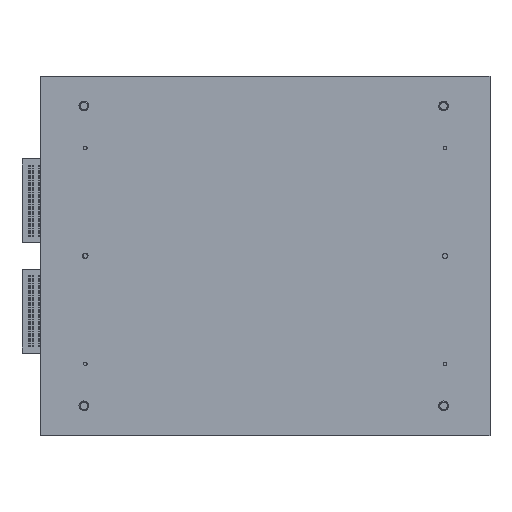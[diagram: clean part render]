
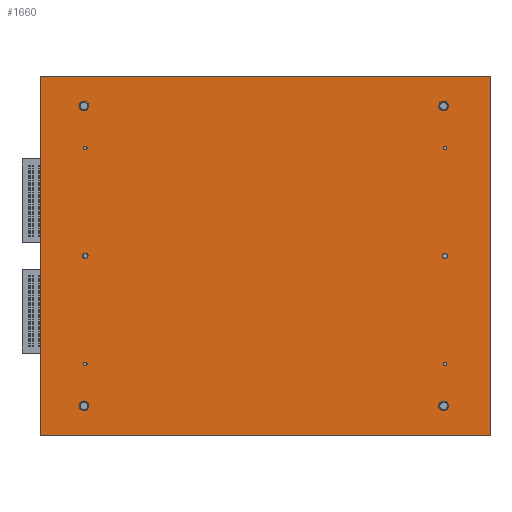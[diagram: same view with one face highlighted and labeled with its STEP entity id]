
A CAD part, top view. The second image highlights one B-rep face of the part: STEP entity #1660.
In plain terms, the highlighted planar face has unit normal (0, 0, 1).
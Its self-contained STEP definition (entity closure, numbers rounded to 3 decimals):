
#108=CARTESIAN_POINT('Axis2P3D Location',(-60.,0.,-0.745)) ;
#112=CARTESIAN_POINT('Vertex',(-60.79,-0.431,-0.745)) ;
#114=CARTESIAN_POINT('Vertex',(-59.21,0.431,-0.745)) ;
#134=CARTESIAN_POINT('Axis2P3D Location',(-60.,0.,-0.745)) ;
#241=CARTESIAN_POINT('Vertex',(-75.,-60.,-0.745)) ;
#244=CARTESIAN_POINT('Line Origine',(-75.,0.,-0.745)) ;
#248=CARTESIAN_POINT('Vertex',(-75.,60.,-0.745)) ;
#332=CARTESIAN_POINT('Line Origine',(0.,60.,-0.745)) ;
#336=CARTESIAN_POINT('Vertex',(75.,60.,-0.745)) ;
#433=CARTESIAN_POINT('Line Origine',(75.,0.,-0.745)) ;
#437=CARTESIAN_POINT('Vertex',(75.,-60.,-0.745)) ;
#590=CARTESIAN_POINT('Vertex',(60.923,-49.223,-0.745)) ;
#595=CARTESIAN_POINT('Axis2P3D Location',(59.5,-50.,-0.745)) ;
#599=CARTESIAN_POINT('Vertex',(58.077,-50.777,-0.745)) ;
#621=CARTESIAN_POINT('Axis2P3D Location',(59.5,-50.,-0.745)) ;
#647=CARTESIAN_POINT('Vertex',(60.923,50.777,-0.745)) ;
#652=CARTESIAN_POINT('Axis2P3D Location',(59.5,50.,-0.745)) ;
#656=CARTESIAN_POINT('Vertex',(58.077,49.223,-0.745)) ;
#678=CARTESIAN_POINT('Axis2P3D Location',(59.5,50.,-0.745)) ;
#704=CARTESIAN_POINT('Vertex',(-59.077,50.777,-0.745)) ;
#709=CARTESIAN_POINT('Axis2P3D Location',(-60.5,50.,-0.745)) ;
#713=CARTESIAN_POINT('Vertex',(-61.923,49.223,-0.745)) ;
#735=CARTESIAN_POINT('Axis2P3D Location',(-60.5,50.,-0.745)) ;
#761=CARTESIAN_POINT('Vertex',(-59.077,-49.223,-0.745)) ;
#766=CARTESIAN_POINT('Axis2P3D Location',(-60.5,-50.,-0.745)) ;
#770=CARTESIAN_POINT('Vertex',(-61.923,-50.777,-0.745)) ;
#792=CARTESIAN_POINT('Axis2P3D Location',(-60.5,-50.,-0.745)) ;
#814=CARTESIAN_POINT('Axis2P3D Location',(-60.,36.,-0.745)) ;
#818=CARTESIAN_POINT('Vertex',(-60.536,35.707,-0.745)) ;
#820=CARTESIAN_POINT('Vertex',(-59.464,36.293,-0.745)) ;
#849=CARTESIAN_POINT('Axis2P3D Location',(-60.,36.,-0.745)) ;
#871=CARTESIAN_POINT('Axis2P3D Location',(-60.,-36.,-0.745)) ;
#875=CARTESIAN_POINT('Vertex',(-59.464,-35.707,-0.745)) ;
#877=CARTESIAN_POINT('Vertex',(-60.536,-36.293,-0.745)) ;
#906=CARTESIAN_POINT('Axis2P3D Location',(-60.,-36.,-0.745)) ;
#928=CARTESIAN_POINT('Axis2P3D Location',(60.,36.,-0.745)) ;
#932=CARTESIAN_POINT('Vertex',(60.536,36.293,-0.745)) ;
#934=CARTESIAN_POINT('Vertex',(59.464,35.707,-0.745)) ;
#963=CARTESIAN_POINT('Axis2P3D Location',(60.,36.,-0.745)) ;
#985=CARTESIAN_POINT('Axis2P3D Location',(60.,-36.,-0.745)) ;
#989=CARTESIAN_POINT('Vertex',(60.536,-35.707,-0.745)) ;
#991=CARTESIAN_POINT('Vertex',(59.464,-36.293,-0.745)) ;
#1020=CARTESIAN_POINT('Axis2P3D Location',(60.,-36.,-0.745)) ;
#1590=CARTESIAN_POINT('Axis2P3D Location',(0.,0.,-0.745)) ;
#1595=CARTESIAN_POINT('Line Origine',(0.,-60.,-0.745)) ;
#1606=CARTESIAN_POINT('Axis2P3D Location',(60.,0.,-0.745)) ;
#1610=CARTESIAN_POINT('Vertex',(59.21,-0.431,-0.745)) ;
#1612=CARTESIAN_POINT('Vertex',(60.79,0.431,-0.745)) ;
#1615=CARTESIAN_POINT('Axis2P3D Location',(60.,0.,-0.745)) ;
#109=DIRECTION('Axis2P3D Direction',(0.,-0.,1.)) ;
#135=DIRECTION('Axis2P3D Direction',(0.,-0.,1.)) ;
#245=DIRECTION('Vector Direction',(0.,1.,0.)) ;
#333=DIRECTION('Vector Direction',(-1.,0.,0.)) ;
#434=DIRECTION('Vector Direction',(0.,-1.,0.)) ;
#596=DIRECTION('Axis2P3D Direction',(0.,-0.,1.)) ;
#622=DIRECTION('Axis2P3D Direction',(0.,-0.,1.)) ;
#653=DIRECTION('Axis2P3D Direction',(0.,-0.,1.)) ;
#679=DIRECTION('Axis2P3D Direction',(0.,-0.,1.)) ;
#710=DIRECTION('Axis2P3D Direction',(0.,-0.,1.)) ;
#736=DIRECTION('Axis2P3D Direction',(0.,-0.,1.)) ;
#767=DIRECTION('Axis2P3D Direction',(0.,-0.,1.)) ;
#793=DIRECTION('Axis2P3D Direction',(0.,-0.,1.)) ;
#815=DIRECTION('Axis2P3D Direction',(0.,-0.,1.)) ;
#850=DIRECTION('Axis2P3D Direction',(0.,-0.,1.)) ;
#872=DIRECTION('Axis2P3D Direction',(0.,0.,1.)) ;
#907=DIRECTION('Axis2P3D Direction',(0.,0.,1.)) ;
#929=DIRECTION('Axis2P3D Direction',(0.,0.,1.)) ;
#964=DIRECTION('Axis2P3D Direction',(0.,0.,1.)) ;
#986=DIRECTION('Axis2P3D Direction',(0.,0.,1.)) ;
#1021=DIRECTION('Axis2P3D Direction',(0.,0.,1.)) ;
#1591=DIRECTION('Axis2P3D Direction',(0.,0.,-1.)) ;
#1592=DIRECTION('Axis2P3D XDirection',(1.,0.,0.)) ;
#1596=DIRECTION('Vector Direction',(1.,0.,0.)) ;
#1607=DIRECTION('Axis2P3D Direction',(0.,0.,-1.)) ;
#1616=DIRECTION('Axis2P3D Direction',(0.,0.,-1.)) ;
#110=AXIS2_PLACEMENT_3D('Circle Axis2P3D',#108,#109,$) ;
#136=AXIS2_PLACEMENT_3D('Circle Axis2P3D',#134,#135,$) ;
#597=AXIS2_PLACEMENT_3D('Circle Axis2P3D',#595,#596,$) ;
#623=AXIS2_PLACEMENT_3D('Circle Axis2P3D',#621,#622,$) ;
#654=AXIS2_PLACEMENT_3D('Circle Axis2P3D',#652,#653,$) ;
#680=AXIS2_PLACEMENT_3D('Circle Axis2P3D',#678,#679,$) ;
#711=AXIS2_PLACEMENT_3D('Circle Axis2P3D',#709,#710,$) ;
#737=AXIS2_PLACEMENT_3D('Circle Axis2P3D',#735,#736,$) ;
#768=AXIS2_PLACEMENT_3D('Circle Axis2P3D',#766,#767,$) ;
#794=AXIS2_PLACEMENT_3D('Circle Axis2P3D',#792,#793,$) ;
#816=AXIS2_PLACEMENT_3D('Circle Axis2P3D',#814,#815,$) ;
#851=AXIS2_PLACEMENT_3D('Circle Axis2P3D',#849,#850,$) ;
#873=AXIS2_PLACEMENT_3D('Circle Axis2P3D',#871,#872,$) ;
#908=AXIS2_PLACEMENT_3D('Circle Axis2P3D',#906,#907,$) ;
#930=AXIS2_PLACEMENT_3D('Circle Axis2P3D',#928,#929,$) ;
#965=AXIS2_PLACEMENT_3D('Circle Axis2P3D',#963,#964,$) ;
#987=AXIS2_PLACEMENT_3D('Circle Axis2P3D',#985,#986,$) ;
#1022=AXIS2_PLACEMENT_3D('Circle Axis2P3D',#1020,#1021,$) ;
#1593=AXIS2_PLACEMENT_3D('Plane Axis2P3D',#1590,#1591,#1592) ;
#1608=AXIS2_PLACEMENT_3D('Circle Axis2P3D',#1606,#1607,$) ;
#1617=AXIS2_PLACEMENT_3D('Circle Axis2P3D',#1615,#1616,$) ;
#1601=ORIENTED_EDGE('',*,*,#1599,.F.) ;
#1602=ORIENTED_EDGE('',*,*,#439,.F.) ;
#1603=ORIENTED_EDGE('',*,*,#338,.F.) ;
#1604=ORIENTED_EDGE('',*,*,#250,.F.) ;
#1621=ORIENTED_EDGE('',*,*,#1614,.T.) ;
#1622=ORIENTED_EDGE('',*,*,#1619,.T.) ;
#1625=ORIENTED_EDGE('',*,*,#138,.T.) ;
#1626=ORIENTED_EDGE('',*,*,#116,.T.) ;
#1629=ORIENTED_EDGE('',*,*,#625,.T.) ;
#1630=ORIENTED_EDGE('',*,*,#601,.T.) ;
#1633=ORIENTED_EDGE('',*,*,#682,.T.) ;
#1634=ORIENTED_EDGE('',*,*,#658,.T.) ;
#1637=ORIENTED_EDGE('',*,*,#739,.T.) ;
#1638=ORIENTED_EDGE('',*,*,#715,.T.) ;
#1641=ORIENTED_EDGE('',*,*,#796,.T.) ;
#1642=ORIENTED_EDGE('',*,*,#772,.T.) ;
#1645=ORIENTED_EDGE('',*,*,#853,.T.) ;
#1646=ORIENTED_EDGE('',*,*,#822,.T.) ;
#1649=ORIENTED_EDGE('',*,*,#910,.T.) ;
#1650=ORIENTED_EDGE('',*,*,#879,.T.) ;
#1653=ORIENTED_EDGE('',*,*,#967,.T.) ;
#1654=ORIENTED_EDGE('',*,*,#936,.T.) ;
#1657=ORIENTED_EDGE('',*,*,#1024,.T.) ;
#1658=ORIENTED_EDGE('',*,*,#993,.T.) ;
#1623=FACE_BOUND('',#1620,.T.) ;
#1627=FACE_BOUND('',#1624,.T.) ;
#1631=FACE_BOUND('',#1628,.T.) ;
#1635=FACE_BOUND('',#1632,.T.) ;
#1639=FACE_BOUND('',#1636,.T.) ;
#1643=FACE_BOUND('',#1640,.T.) ;
#1647=FACE_BOUND('',#1644,.T.) ;
#1651=FACE_BOUND('',#1648,.T.) ;
#1655=FACE_BOUND('',#1652,.T.) ;
#1659=FACE_BOUND('',#1656,.T.) ;
#246=VECTOR('Line Direction',#245,1.) ;
#334=VECTOR('Line Direction',#333,1.) ;
#435=VECTOR('Line Direction',#434,1.) ;
#1597=VECTOR('Line Direction',#1596,1.) ;
#1660=ADVANCED_FACE('Corps principal',(#1605,#1623,#1627,#1631,#1635,#1639,#1643,#1647,#1651,#1655,#1659),#1594,.F.) ;
#111=CIRCLE('generated circle',#110,0.9) ;
#137=CIRCLE('generated circle',#136,0.9) ;
#598=CIRCLE('generated circle',#597,1.621) ;
#624=CIRCLE('generated circle',#623,1.621) ;
#655=CIRCLE('generated circle',#654,1.621) ;
#681=CIRCLE('generated circle',#680,1.621) ;
#712=CIRCLE('generated circle',#711,1.621) ;
#738=CIRCLE('generated circle',#737,1.621) ;
#769=CIRCLE('generated circle',#768,1.621) ;
#795=CIRCLE('generated circle',#794,1.621) ;
#817=CIRCLE('generated circle',#816,0.611) ;
#852=CIRCLE('generated circle',#851,0.611) ;
#874=CIRCLE('generated circle',#873,0.611) ;
#909=CIRCLE('generated circle',#908,0.611) ;
#931=CIRCLE('generated circle',#930,0.611) ;
#966=CIRCLE('generated circle',#965,0.611) ;
#988=CIRCLE('generated circle',#987,0.611) ;
#1023=CIRCLE('generated circle',#1022,0.611) ;
#1609=CIRCLE('generated circle',#1608,0.9) ;
#1618=CIRCLE('generated circle',#1617,0.9) ;
#116=EDGE_CURVE('',#113,#115,#111,.F.) ;
#138=EDGE_CURVE('',#115,#113,#137,.F.) ;
#250=EDGE_CURVE('',#242,#249,#247,.T.) ;
#338=EDGE_CURVE('',#249,#337,#335,.F.) ;
#439=EDGE_CURVE('',#337,#438,#436,.T.) ;
#601=EDGE_CURVE('',#600,#591,#598,.F.) ;
#625=EDGE_CURVE('',#591,#600,#624,.F.) ;
#658=EDGE_CURVE('',#657,#648,#655,.F.) ;
#682=EDGE_CURVE('',#648,#657,#681,.F.) ;
#715=EDGE_CURVE('',#714,#705,#712,.F.) ;
#739=EDGE_CURVE('',#705,#714,#738,.F.) ;
#772=EDGE_CURVE('',#771,#762,#769,.F.) ;
#796=EDGE_CURVE('',#762,#771,#795,.F.) ;
#822=EDGE_CURVE('',#819,#821,#817,.F.) ;
#853=EDGE_CURVE('',#821,#819,#852,.F.) ;
#879=EDGE_CURVE('',#876,#878,#874,.F.) ;
#910=EDGE_CURVE('',#878,#876,#909,.F.) ;
#936=EDGE_CURVE('',#933,#935,#931,.F.) ;
#967=EDGE_CURVE('',#935,#933,#966,.F.) ;
#993=EDGE_CURVE('',#990,#992,#988,.F.) ;
#1024=EDGE_CURVE('',#992,#990,#1023,.F.) ;
#1599=EDGE_CURVE('',#438,#242,#1598,.F.) ;
#1614=EDGE_CURVE('',#1611,#1613,#1609,.T.) ;
#1619=EDGE_CURVE('',#1613,#1611,#1618,.T.) ;
#1600=EDGE_LOOP('',(#1601,#1602,#1603,#1604)) ;
#1620=EDGE_LOOP('',(#1621,#1622)) ;
#1624=EDGE_LOOP('',(#1625,#1626)) ;
#1628=EDGE_LOOP('',(#1629,#1630)) ;
#1632=EDGE_LOOP('',(#1633,#1634)) ;
#1636=EDGE_LOOP('',(#1637,#1638)) ;
#1640=EDGE_LOOP('',(#1641,#1642)) ;
#1644=EDGE_LOOP('',(#1645,#1646)) ;
#1648=EDGE_LOOP('',(#1649,#1650)) ;
#1652=EDGE_LOOP('',(#1653,#1654)) ;
#1656=EDGE_LOOP('',(#1657,#1658)) ;
#1605=FACE_OUTER_BOUND('',#1600,.T.) ;
#247=LINE('Line',#244,#246) ;
#335=LINE('Line',#332,#334) ;
#436=LINE('Line',#433,#435) ;
#1598=LINE('Line',#1595,#1597) ;
#1594=PLANE('Plane',#1593) ;
#113=VERTEX_POINT('',#112) ;
#115=VERTEX_POINT('',#114) ;
#242=VERTEX_POINT('',#241) ;
#249=VERTEX_POINT('',#248) ;
#337=VERTEX_POINT('',#336) ;
#438=VERTEX_POINT('',#437) ;
#591=VERTEX_POINT('',#590) ;
#600=VERTEX_POINT('',#599) ;
#648=VERTEX_POINT('',#647) ;
#657=VERTEX_POINT('',#656) ;
#705=VERTEX_POINT('',#704) ;
#714=VERTEX_POINT('',#713) ;
#762=VERTEX_POINT('',#761) ;
#771=VERTEX_POINT('',#770) ;
#819=VERTEX_POINT('',#818) ;
#821=VERTEX_POINT('',#820) ;
#876=VERTEX_POINT('',#875) ;
#878=VERTEX_POINT('',#877) ;
#933=VERTEX_POINT('',#932) ;
#935=VERTEX_POINT('',#934) ;
#990=VERTEX_POINT('',#989) ;
#992=VERTEX_POINT('',#991) ;
#1611=VERTEX_POINT('',#1610) ;
#1613=VERTEX_POINT('',#1612) ;
